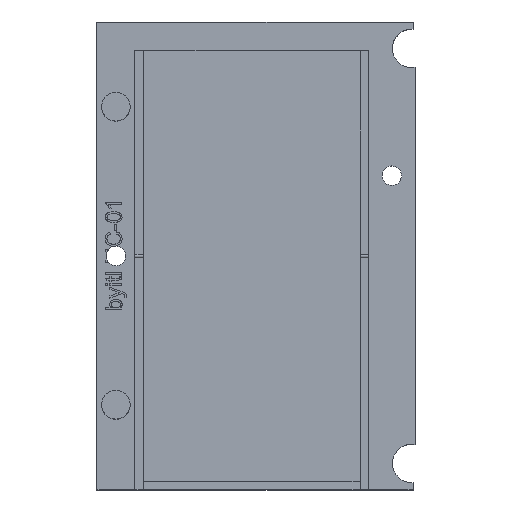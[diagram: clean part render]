
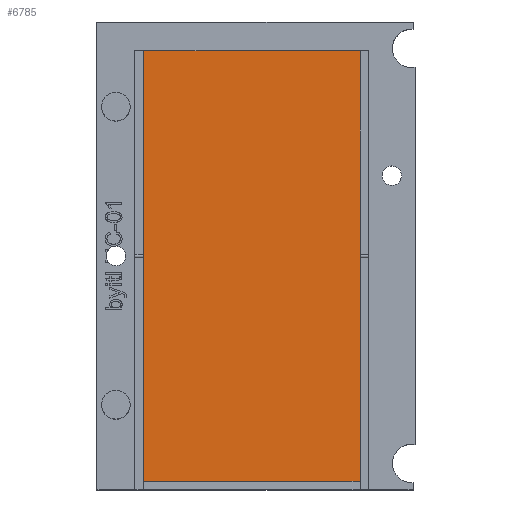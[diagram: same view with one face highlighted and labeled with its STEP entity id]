
A CAD part, top view. The second image highlights one B-rep face of the part: STEP entity #6785.
In plain terms, the highlighted planar face has unit normal (0, 0, 1).
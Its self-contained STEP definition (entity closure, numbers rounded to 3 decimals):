
#44 = PLANE('',#45);
#45 = AXIS2_PLACEMENT_3D('',#46,#47,#48);
#46 = CARTESIAN_POINT('',(20.1,-40.81,8.96));
#47 = DIRECTION('',(-1.,0.,0.));
#48 = DIRECTION('',(0.,1.,0.));
#100 = PLANE('',#101);
#101 = AXIS2_PLACEMENT_3D('',#102,#103,#104);
#102 = CARTESIAN_POINT('',(57.9,-40.81,8.96));
#103 = DIRECTION('',(-1.,0.,0.));
#104 = DIRECTION('',(0.,1.,0.));
#359 = VERTEX_POINT('',#360);
#360 = CARTESIAN_POINT('',(20.1,35.81,5.46));
#376 = PLANE('',#377);
#377 = AXIS2_PLACEMENT_3D('',#378,#379,#380);
#378 = CARTESIAN_POINT('',(18.6,35.81,8.96));
#379 = DIRECTION('',(0.,1.,0.));
#380 = DIRECTION('',(1.,0.,0.));
#388 = EDGE_CURVE('',#389,#359,#391,.T.);
#389 = VERTEX_POINT('',#390);
#390 = CARTESIAN_POINT('',(20.1,-39.31,5.46));
#391 = SURFACE_CURVE('',#392,(#396,#403),.PCURVE_S1.);
#392 = LINE('',#393,#394);
#393 = CARTESIAN_POINT('',(20.1,-1.75,5.46));
#394 = VECTOR('',#395,1.);
#395 = DIRECTION('',(0.,1.,0.));
#396 = PCURVE('',#44,#397);
#397 = DEFINITIONAL_REPRESENTATION('',(#398),#402);
#398 = LINE('',#399,#400);
#399 = CARTESIAN_POINT('',(39.06,3.5));
#400 = VECTOR('',#401,1.);
#401 = DIRECTION('',(1.,0.));
#402 = ( GEOMETRIC_REPRESENTATION_CONTEXT(2) 
PARAMETRIC_REPRESENTATION_CONTEXT() REPRESENTATION_CONTEXT('2D SPACE',''
  ) );
#403 = PCURVE('',#404,#409);
#404 = PLANE('',#405);
#405 = AXIS2_PLACEMENT_3D('',#406,#407,#408);
#406 = CARTESIAN_POINT('',(39.,-1.75,5.46));
#407 = DIRECTION('',(0.,0.,1.));
#408 = DIRECTION('',(1.,0.,0.));
#409 = DEFINITIONAL_REPRESENTATION('',(#410),#414);
#410 = LINE('',#411,#412);
#411 = CARTESIAN_POINT('',(-18.9,0.));
#412 = VECTOR('',#413,1.);
#413 = DIRECTION('',(0.,1.));
#414 = ( GEOMETRIC_REPRESENTATION_CONTEXT(2) 
PARAMETRIC_REPRESENTATION_CONTEXT() REPRESENTATION_CONTEXT('2D SPACE',''
  ) );
#432 = PLANE('',#433);
#433 = AXIS2_PLACEMENT_3D('',#434,#435,#436);
#434 = CARTESIAN_POINT('',(18.6,-39.31,8.96));
#435 = DIRECTION('',(0.,1.,0.));
#436 = DIRECTION('',(1.,0.,0.));
#6551 = VERTEX_POINT('',#6552);
#6552 = CARTESIAN_POINT('',(57.9,35.81,5.46));
#6573 = EDGE_CURVE('',#6574,#6551,#6576,.T.);
#6574 = VERTEX_POINT('',#6575);
#6575 = CARTESIAN_POINT('',(57.9,-39.31,5.46));
#6576 = SURFACE_CURVE('',#6577,(#6581,#6588),.PCURVE_S1.);
#6577 = LINE('',#6578,#6579);
#6578 = CARTESIAN_POINT('',(57.9,-1.75,5.46));
#6579 = VECTOR('',#6580,1.);
#6580 = DIRECTION('',(0.,1.,0.));
#6581 = PCURVE('',#100,#6582);
#6582 = DEFINITIONAL_REPRESENTATION('',(#6583),#6587);
#6583 = LINE('',#6584,#6585);
#6584 = CARTESIAN_POINT('',(39.06,3.5));
#6585 = VECTOR('',#6586,1.);
#6586 = DIRECTION('',(1.,0.));
#6587 = ( GEOMETRIC_REPRESENTATION_CONTEXT(2) 
PARAMETRIC_REPRESENTATION_CONTEXT() REPRESENTATION_CONTEXT('2D SPACE',''
  ) );
#6588 = PCURVE('',#404,#6589);
#6589 = DEFINITIONAL_REPRESENTATION('',(#6590),#6594);
#6590 = LINE('',#6591,#6592);
#6591 = CARTESIAN_POINT('',(18.9,0.));
#6592 = VECTOR('',#6593,1.);
#6593 = DIRECTION('',(0.,1.));
#6594 = ( GEOMETRIC_REPRESENTATION_CONTEXT(2) 
PARAMETRIC_REPRESENTATION_CONTEXT() REPRESENTATION_CONTEXT('2D SPACE',''
  ) );
#6764 = EDGE_CURVE('',#359,#6551,#6765,.T.);
#6765 = SURFACE_CURVE('',#6766,(#6770,#6777),.PCURVE_S1.);
#6766 = LINE('',#6767,#6768);
#6767 = CARTESIAN_POINT('',(39.,35.81,5.46));
#6768 = VECTOR('',#6769,1.);
#6769 = DIRECTION('',(1.,0.,0.));
#6770 = PCURVE('',#376,#6771);
#6771 = DEFINITIONAL_REPRESENTATION('',(#6772),#6776);
#6772 = LINE('',#6773,#6774);
#6773 = CARTESIAN_POINT('',(20.4,3.5));
#6774 = VECTOR('',#6775,1.);
#6775 = DIRECTION('',(1.,0.));
#6776 = ( GEOMETRIC_REPRESENTATION_CONTEXT(2) 
PARAMETRIC_REPRESENTATION_CONTEXT() REPRESENTATION_CONTEXT('2D SPACE',''
  ) );
#6777 = PCURVE('',#404,#6778);
#6778 = DEFINITIONAL_REPRESENTATION('',(#6779),#6783);
#6779 = LINE('',#6780,#6781);
#6780 = CARTESIAN_POINT('',(0.,37.56));
#6781 = VECTOR('',#6782,1.);
#6782 = DIRECTION('',(1.,0.));
#6783 = ( GEOMETRIC_REPRESENTATION_CONTEXT(2) 
PARAMETRIC_REPRESENTATION_CONTEXT() REPRESENTATION_CONTEXT('2D SPACE',''
  ) );
#6785 = ADVANCED_FACE('',(#6786),#404,.T.);
#6786 = FACE_BOUND('',#6787,.T.);
#6787 = EDGE_LOOP('',(#6788,#6789,#6810,#6811));
#6788 = ORIENTED_EDGE('',*,*,#388,.F.);
#6789 = ORIENTED_EDGE('',*,*,#6790,.T.);
#6790 = EDGE_CURVE('',#389,#6574,#6791,.T.);
#6791 = SURFACE_CURVE('',#6792,(#6796,#6803),.PCURVE_S1.);
#6792 = LINE('',#6793,#6794);
#6793 = CARTESIAN_POINT('',(39.,-39.31,5.46));
#6794 = VECTOR('',#6795,1.);
#6795 = DIRECTION('',(1.,0.,0.));
#6796 = PCURVE('',#404,#6797);
#6797 = DEFINITIONAL_REPRESENTATION('',(#6798),#6802);
#6798 = LINE('',#6799,#6800);
#6799 = CARTESIAN_POINT('',(0.,-37.56));
#6800 = VECTOR('',#6801,1.);
#6801 = DIRECTION('',(1.,0.));
#6802 = ( GEOMETRIC_REPRESENTATION_CONTEXT(2) 
PARAMETRIC_REPRESENTATION_CONTEXT() REPRESENTATION_CONTEXT('2D SPACE',''
  ) );
#6803 = PCURVE('',#432,#6804);
#6804 = DEFINITIONAL_REPRESENTATION('',(#6805),#6809);
#6805 = LINE('',#6806,#6807);
#6806 = CARTESIAN_POINT('',(20.4,3.5));
#6807 = VECTOR('',#6808,1.);
#6808 = DIRECTION('',(1.,0.));
#6809 = ( GEOMETRIC_REPRESENTATION_CONTEXT(2) 
PARAMETRIC_REPRESENTATION_CONTEXT() REPRESENTATION_CONTEXT('2D SPACE',''
  ) );
#6810 = ORIENTED_EDGE('',*,*,#6573,.T.);
#6811 = ORIENTED_EDGE('',*,*,#6764,.F.);
